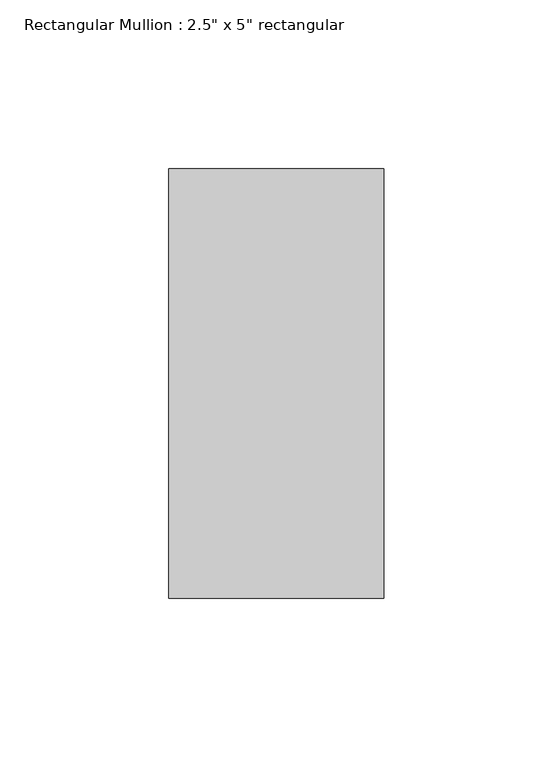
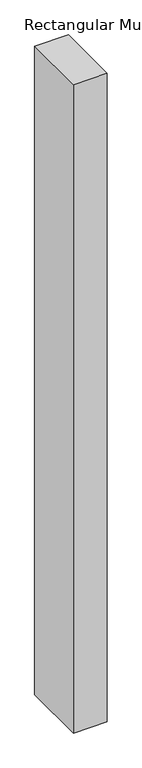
"""IFC4 building model written with IfcOpenShell, lengths in millimetres: member geometry."""

from ifc_helpers import new_model, si_unit, frame, origin, place, context, project, spatial, polyline, outline, extrude, source, transform, mapped, element, save


def member_c8c2a2fa(model_context):
    return source(origin(), model_context, "Body", "SweptSolid", [
        extrude(outline(polyline([(31.75, 63.5), (31.75, -63.5), (-31.75, -63.5), (-31.75, 63.5), (31.75, 63.5)])), frame((0.0, 0.0, -1295.4), z_axis=(0.0, 0.0, 1.0), x_axis=(1.0, 0.0, 0.0)), (0.0, 0.0, 1.0), 1295.4),
    ])


if __name__ == "__main__":
    model = new_model("IFC4")
    model_context = context("Model", 3, world=origin())
    ifc_project = project(units=[si_unit("LENGTHUNIT", "METRE", prefix="MILLI")], contexts=[model_context])
    site = spatial("IfcSite", under=ifc_project)
    building = spatial("IfcBuilding", under=site)
    placement = place(None, origin())
    member_shape = member_c8c2a2fa(model_context)
    element("IfcMember", 1, ObjectType="Rectangular Mullion : 2.5\" x 5\" rectangular", at=placement, inside=building, context=model_context, shape_type="MappedRepresentation", body=[
        mapped(member_shape, transform((0.0, 0.0, 0.0), x_axis=(1.0, 0.0, 0.0), y_axis=(0.0, 1.0, 0.0), z_axis=(0.0, 0.0, 1.0))),
    ])
    save(model, "model.ifc")
